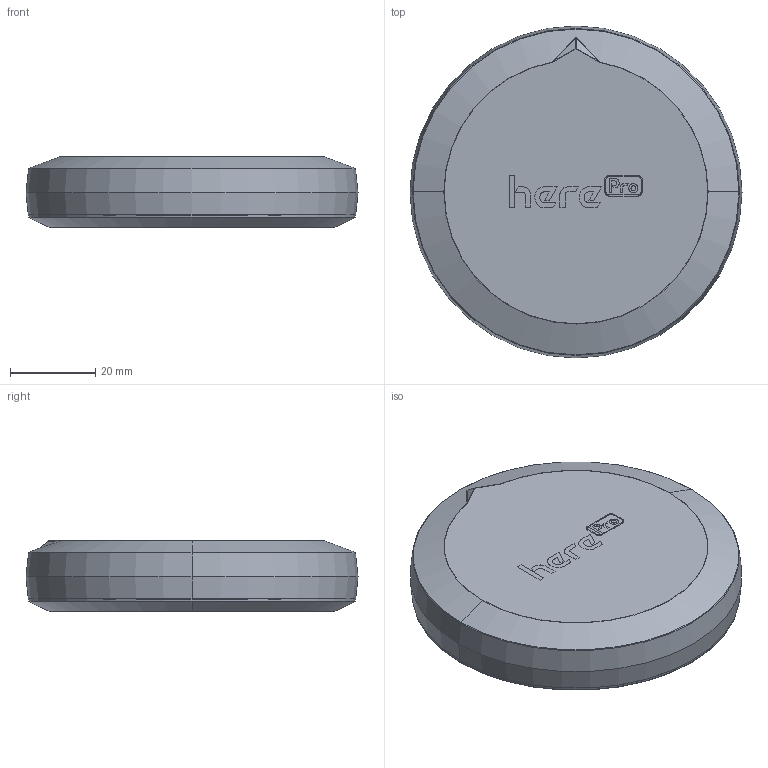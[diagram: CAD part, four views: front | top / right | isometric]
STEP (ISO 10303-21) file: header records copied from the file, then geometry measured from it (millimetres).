
FILE_DESCRIPTION (( 'STEP AP214' ), '1' );
FILE_NAME ('HerePro.STEP', '2023-02-09T03:01:34', ( '' ), ( '' ), 'SwSTEP 2.0', 'SolidWorks 2018', '' );
FILE_SCHEMA (( 'AUTOMOTIVE_DESIGN' ));
Length unit declared in the file: millimetre
Products named in the file (8): Open CASCADE STEP translator 7.5 2.1.1.step; Mylar; Con2C.step; Board.step; here_pro_2022_top_case_202200810; here_pro_2022_mid_case20220810.stp; HerePro; here_pro_2022_btm_case_20220803_O_ring
Assembly tree (7 placements, depth 4):
  HerePro
    here_pro_2022_btm_case_20220803_O_ring
    here_pro_2022_mid_case20220810.stp
    Con2C.step
      Board.step
        Open CASCADE STEP translator 7.5 2.1.1.step
    Mylar
    here_pro_2022_top_case_202200810
Bounding box: 77.99 x 77.99 x 16.49 mm (x, y, z)
Volume: 24869.6 mm3; surface area: 45241.8 mm2
Topology: 5 solids, 5 shells, 1119 faces, 2858 edges, 1837 vertices
Faces by surface type: cylinder 521, plane 275, cone 234, bspline 77, torus 11, sphere 1
Entity records: 39496 total; most frequent: CARTESIAN_POINT 11601, DIRECTION 5986, ORIENTED_EDGE 5716, EDGE_CURVE 2858, AXIS2_PLACEMENT_3D 2385, VERTEX_POINT 1837, CIRCLE 1331, EDGE_LOOP 1247
